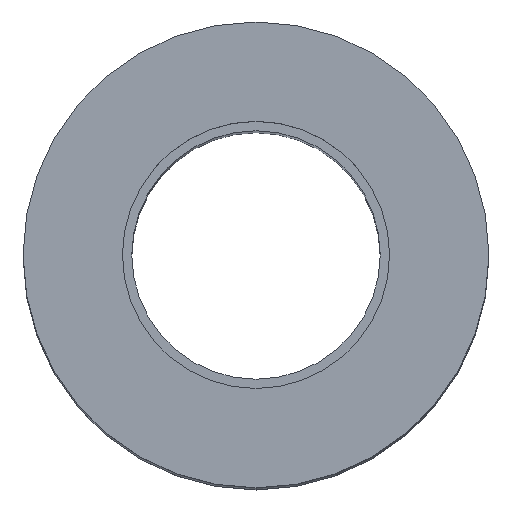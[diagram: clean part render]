
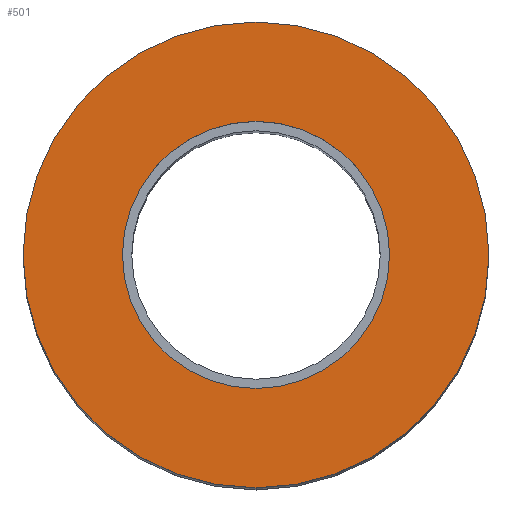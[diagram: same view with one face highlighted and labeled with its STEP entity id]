
A CAD part, top view. The second image highlights one B-rep face of the part: STEP entity #501.
In plain terms, the highlighted planar face has unit normal (0, 0, 1).
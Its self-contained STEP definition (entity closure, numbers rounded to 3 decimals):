
#2 = CARTESIAN_POINT ( 'NONE',  ( 0., 8.6, 0. ) ) ;
#9 = EDGE_LOOP ( 'NONE', ( #407, #149 ) ) ;
#13 = DIRECTION ( 'NONE',  ( 0., -1., 0. ) ) ;
#26 = AXIS2_PLACEMENT_3D ( 'NONE', #182, #559, #245 ) ;
#56 = DIRECTION ( 'NONE',  ( 0., -1., 0. ) ) ;
#80 = CIRCLE ( 'NONE', #303, 15. ) ;
#92 = PLANE ( 'NONE',  #486 ) ;
#108 = CIRCLE ( 'NONE', #125, 8.6 ) ;
#125 = AXIS2_PLACEMENT_3D ( 'NONE', #335, #497, #13 ) ;
#137 = VERTEX_POINT ( 'NONE', #2 ) ;
#142 = CARTESIAN_POINT ( 'NONE',  ( 0., 15., 0. ) ) ;
#149 = ORIENTED_EDGE ( 'NONE', *, *, #611, .T. ) ;
#178 = CARTESIAN_POINT ( 'NONE',  ( 0., 15., 0. ) ) ;
#182 = CARTESIAN_POINT ( 'NONE',  ( 0., 0., 0. ) ) ;
#189 = ORIENTED_EDGE ( 'NONE', *, *, #425, .F. ) ;
#210 = VERTEX_POINT ( 'NONE', #178 ) ;
#245 = DIRECTION ( 'NONE',  ( 0., -1., 0. ) ) ;
#262 = DIRECTION ( 'NONE',  ( 0., -1., 0. ) ) ;
#273 = EDGE_CURVE ( 'NONE', #137, #433, #108, .T. ) ;
#303 = AXIS2_PLACEMENT_3D ( 'NONE', #535, #479, #56 ) ;
#335 = CARTESIAN_POINT ( 'NONE',  ( 0., 0., 0. ) ) ;
#339 = FACE_BOUND ( 'NONE', #716, .T. ) ;
#356 = DIRECTION ( 'NONE',  ( 0., 0., 1. ) ) ;
#371 = DIRECTION ( 'NONE',  ( 0., 0., 1. ) ) ;
#377 = FACE_OUTER_BOUND ( 'NONE', #9, .T. ) ;
#401 = CIRCLE ( 'NONE', #26, 8.6 ) ;
#407 = ORIENTED_EDGE ( 'NONE', *, *, #602, .T. ) ;
#425 = EDGE_CURVE ( 'NONE', #433, #137, #401, .T. ) ;
#433 = VERTEX_POINT ( 'NONE', #687 ) ;
#471 = AXIS2_PLACEMENT_3D ( 'NONE', #483, #371, #262 ) ;
#479 = DIRECTION ( 'NONE',  ( 0., 0., 1. ) ) ;
#483 = CARTESIAN_POINT ( 'NONE',  ( 0., 0., 0. ) ) ;
#486 = AXIS2_PLACEMENT_3D ( 'NONE', #142, #356, #577 ) ;
#497 = DIRECTION ( 'NONE',  ( 0., 0., 1. ) ) ;
#501 = ADVANCED_FACE ( 'NONE', ( #377, #339 ), #92, .T. ) ;
#512 = ORIENTED_EDGE ( 'NONE', *, *, #273, .F. ) ;
#535 = CARTESIAN_POINT ( 'NONE',  ( 0., 0., 0. ) ) ;
#559 = DIRECTION ( 'NONE',  ( 0., 0., 1. ) ) ;
#577 = DIRECTION ( 'NONE',  ( 0., -1., 0. ) ) ;
#602 = EDGE_CURVE ( 'NONE', #684, #210, #80, .T. ) ;
#611 = EDGE_CURVE ( 'NONE', #210, #684, #635, .T. ) ;
#635 = CIRCLE ( 'NONE', #471, 15. ) ;
#646 = CARTESIAN_POINT ( 'NONE',  ( 0., -15., 0. ) ) ;
#684 = VERTEX_POINT ( 'NONE', #646 ) ;
#687 = CARTESIAN_POINT ( 'NONE',  ( 0., -8.6, 0. ) ) ;
#716 = EDGE_LOOP ( 'NONE', ( #189, #512 ) ) ;
